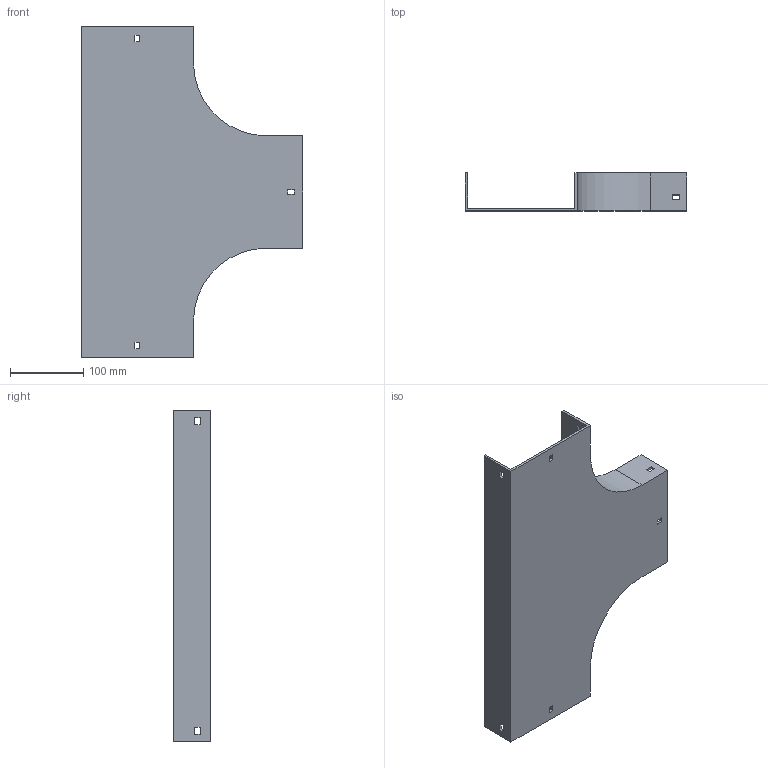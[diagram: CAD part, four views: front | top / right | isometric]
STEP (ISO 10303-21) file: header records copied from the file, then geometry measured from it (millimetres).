
FILE_DESCRIPTION (( 'STEP AP214' ), '1' );
FILE_NAME ('15B1B150.step', '2025-02-21T09:54:10', ( '' ), ( '' ), 'SwSTEP 2.0', 'SolidWorks 2023', '' );
FILE_SCHEMA (( 'AUTOMOTIVE_DESIGN' ));
Length unit declared in the file: millimetre
Products named in the file (1): 15B1B150
Bounding box: 304 x 52 x 454 mm (x, y, z)
Volume: 503772.2 mm3; surface area: 294933.4 mm2
Topology: 1 solids, 1 shells, 58 faces, 168 edges, 112 vertices
Faces by surface type: plane 54, cylinder 4
Entity records: 1939 total; most frequent: CARTESIAN_POINT 339, ORIENTED_EDGE 336, DIRECTION 294, EDGE_CURVE 168, LINE 160, VECTOR 160, VERTEX_POINT 112, EDGE_LOOP 76
